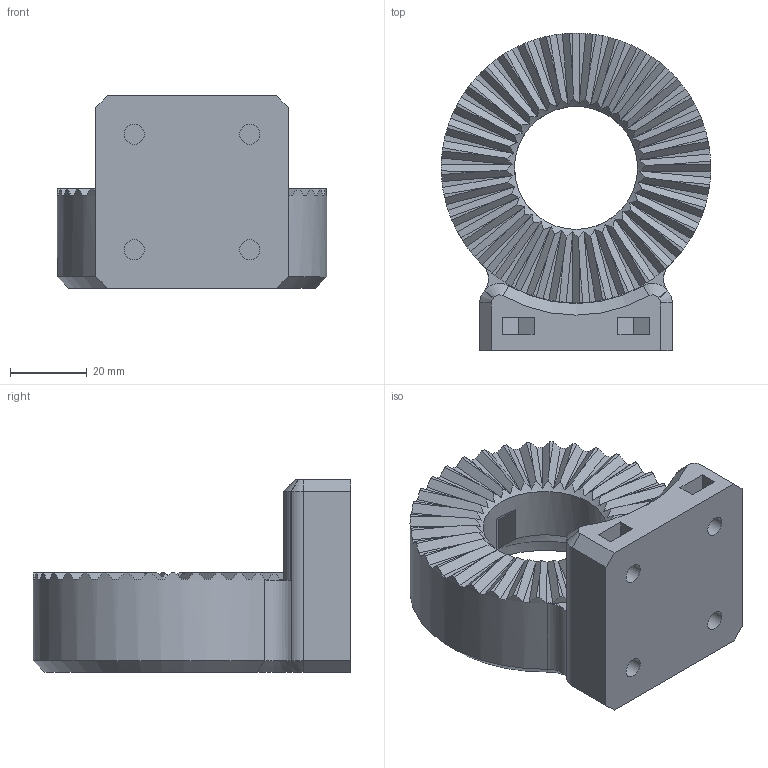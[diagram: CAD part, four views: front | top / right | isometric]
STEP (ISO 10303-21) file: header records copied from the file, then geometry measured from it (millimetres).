
FILE_DESCRIPTION(/* description */ (''),/* implementation_level */ '2;1');
FILE_NAME(/* name */ '/Users/rostapetr/Downloads/holder 4 nut - d30 M5.step',/* time_stamp */ '2022-04-16T22:20:39+02:00',/* author */ (''),/* organization */ (''),/* preprocessor_version */ 'ST-DEVELOPER v18.1',/* originating_system */ 'Autodesk Translation Framework v10.14.0.1471',/* authorisation */ '');
FILE_SCHEMA (('AUTOMOTIVE_DESIGN { 1 0 10303 214 3 1 1 }'));
Length unit declared in the file: millimetre
Products named in the file (1): holder 4 nut - d30 M5
Bounding box: 70 x 82.5 x 50 mm (x, y, z)
Volume: 102521.9 mm3; surface area: 22271.7 mm2
Topology: 1 solids, 1 shells, 225 faces, 706 edges, 490 vertices
Faces by surface type: plane 188, cone 19, cylinder 18
Full cylindrical faces by diameter (mm): 5.2 x8, 32 x1, 45.5 x1, 70 x1
Entity records: 7856 total; most frequent: CARTESIAN_POINT 1736, ORIENTED_EDGE 1412, DIRECTION 1210, EDGE_CURVE 706, VERTEX_POINT 490, AXIS2_PLACEMENT_3D 435, LINE 340, VECTOR 340
